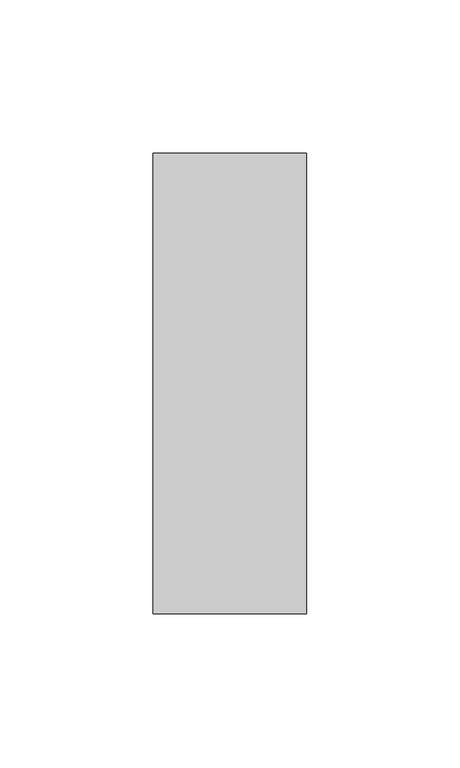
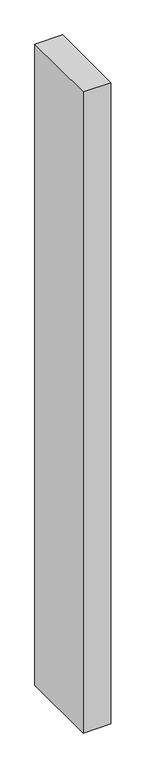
"""IFC4 building model written with IfcOpenShell, lengths in millimetres: member geometry, Прямоугольный импост : 50 x 150 мм."""

import ifcopenshell
import ifcopenshell.guid

model = None  # the IFC model being written
_history = None  # IfcOwnerHistory: only IFC2X3 demands one
_inside = {}  # id of a spatial element -> (the spatial element, [elements in it])
_under = {}  # id of a project, library or spatial element -> (it, [spatial elements below it])
_declared = {}  # id of a project -> (the project, [libraries it declares])
_typed = {}  # id of a type object -> (the type object, [elements of that type])
_made_of = {}  # id of a material, layer set ... -> (it, [elements and type objects made of it])


def new_model(schema):
    """Start an empty IFC model of exactly this schema.

    Asked for "IFC4X3", IfcOpenShell would pick the latest addendum, in which some entities
    have other attributes; the version numbers below select the first issue.
    IFC2X3 requires an IfcOwnerHistory on every rooted entity: one is made here for all.
    """
    global model, _history
    if schema == "IFC4X3":
        model = ifcopenshell.file(schema_version=(4, 3, 0, 0))
    else:
        model = ifcopenshell.file(schema=schema)
    _inside.clear()
    _under.clear()
    _declared.clear()
    _typed.clear()
    _made_of.clear()
    _history = None
    if model.schema == "IFC2X3":
        org = make("IfcOrganization", Name="unknown")
        user = make(
            "IfcPersonAndOrganization",
            ThePerson=make("IfcPerson", FamilyName="unknown"),
            TheOrganization=org,
        )
        app = make(
            "IfcApplication",
            ApplicationDeveloper=org,
            Version="unknown",
            ApplicationFullName="unknown",
            ApplicationIdentifier="unknown",
        )
        _history = make(
            "IfcOwnerHistory",
            OwningUser=user,
            OwningApplication=app,
            ChangeAction="ADDED",
            CreationDate=0,
        )
    return model


def make(cls, **values):
    """One entity of the class cls with the attributes given. An attribute that is None is left unset."""
    return model.create_entity(
        cls, **{name: value for name, value in values.items() if value is not None}
    )


def rooted(cls, **values):
    """An entity with a GlobalId (a new one), such as an element, a storey or a relation."""
    return make(cls, GlobalId=ifcopenshell.guid.new(), OwnerHistory=_history, **values)


def si_unit(unit_type, name, prefix=None):
    """IfcSIUnit, for example si_unit("LENGTHUNIT", "METRE", prefix="MILLI")."""
    return make("IfcSIUnit", UnitType=unit_type, Prefix=prefix, Name=name)


def assignment(units):
    """IfcUnitAssignment: the units of a project."""
    return None if units is None else make("IfcUnitAssignment", Units=units)


def point(xyz):
    """IfcCartesianPoint."""
    return None if xyz is None else make("IfcCartesianPoint", Coordinates=xyz)


def direction(xyz):
    """IfcDirection."""
    return None if xyz is None else make("IfcDirection", DirectionRatios=xyz)


def frame(location, z_axis=None, x_axis=None):
    """IfcAxis2Placement3D, a coordinate frame: its origin and axes. An axis left out is left unset."""
    return make(
        "IfcAxis2Placement3D",
        Location=point(location),
        Axis=direction(z_axis),
        RefDirection=direction(x_axis),
    )


def origin():
    """The frame at (0, 0, 0) with its axes left unset."""
    return frame((0.0, 0.0, 0.0))


def place(relative_to, where):
    """IfcLocalPlacement: puts the frame where relative to a parent placement (None: the world)."""
    return make(
        "IfcLocalPlacement", PlacementRelTo=relative_to, RelativePlacement=where
    )


def context(
    kind, dimensions, precision=None, world=None, true_north=None, identifier=None
):
    """IfcGeometricRepresentationContext, for example the 3D "Model" context."""
    return make(
        "IfcGeometricRepresentationContext",
        ContextIdentifier=identifier,
        ContextType=kind,
        CoordinateSpaceDimension=dimensions,
        Precision=precision,
        WorldCoordinateSystem=world,
        TrueNorth=true_north,
    )


def project(units=None, contexts=None):
    """IfcProject with its units and contexts."""
    return rooted(
        "IfcProject",
        Name="project",
        RepresentationContexts=contexts,
        UnitsInContext=assignment(units),
    )


def spatial(cls, under=None, at=None, **own):
    """A site, building, storey or space (cls), placed at a placement, below another one or the project."""
    s = rooted(cls, ObjectPlacement=at, **own)
    if under is not None:
        _under.setdefault(under.id(), (under, []))[1].append(s)
    return s


def polyline(points):
    """IfcPolyline through the points."""
    return make("IfcPolyline", Points=[point(p) for p in points])


def outline(outer, holes=None, kind="AREA"):
    """IfcArbitraryClosedProfileDef: a profile drawn as a closed curve; with holes, ...WithVoids."""
    if holes is None:
        return make("IfcArbitraryClosedProfileDef", ProfileType=kind, OuterCurve=outer)
    return make(
        "IfcArbitraryProfileDefWithVoids",
        ProfileType=kind,
        OuterCurve=outer,
        InnerCurves=holes,
    )


def extrude(swept, where, along, depth):
    """IfcExtrudedAreaSolid: the profile swept, set in the frame where, extruded along a direction by depth."""
    return make(
        "IfcExtrudedAreaSolid",
        SweptArea=swept,
        Position=where,
        ExtrudedDirection=direction(along),
        Depth=depth,
    )


def shape(context_of_items, identifier, shape_type, items):
    """IfcShapeRepresentation: the items that make up one representation, for example the "Body"."""
    return make(
        "IfcShapeRepresentation",
        ContextOfItems=context_of_items,
        RepresentationIdentifier=identifier,
        RepresentationType=shape_type,
        Items=items,
    )


def source(mapping_origin, context_of_items, identifier, shape_type, items):
    """IfcRepresentationMap: a shape defined once, which mapped items show again and again."""
    return make(
        "IfcRepresentationMap",
        MappingOrigin=mapping_origin,
        MappedRepresentation=shape(context_of_items, identifier, shape_type, items),
    )


def transform(
    local_origin,
    x_axis=None,
    y_axis=None,
    z_axis=None,
    scale=None,
    scale2=None,
    scale3=None,
    uniform=True,
):
    """IfcCartesianTransformationOperator3D, or its non-uniform kind. x_axis, y_axis, z_axis: its Axis1, 2, 3."""
    if uniform:
        return make(
            "IfcCartesianTransformationOperator3D",
            Axis1=direction(x_axis),
            Axis2=direction(y_axis),
            LocalOrigin=point(local_origin),
            Scale=scale,
            Axis3=direction(z_axis),
        )
    return make(
        "IfcCartesianTransformationOperator3DnonUniform",
        Axis1=direction(x_axis),
        Axis2=direction(y_axis),
        LocalOrigin=point(local_origin),
        Scale=scale,
        Axis3=direction(z_axis),
        Scale2=scale2,
        Scale3=scale3,
    )


def mapped(mapping_source, mapping_target):
    """IfcMappedItem: shows the shape of a source again, moved by a transform."""
    return make(
        "IfcMappedItem", MappingSource=mapping_source, MappingTarget=mapping_target
    )


def made_of(thing, what):
    """Note that an element or type object is made of a material, layer set ...; save() writes the relation."""
    if what is not None:
        _made_of.setdefault(what.id(), (what, []))[1].append(thing)
    return thing


def element(
    cls,
    number,
    at=None,
    inside=None,
    cuts=None,
    type_object=None,
    material=None,
    context=None,
    identifier="Body",
    shape_type=None,
    held_by="IfcProductDefinitionShape",
    body=None,
    shapes=None,
    **own,
):
    """One element of the class cls, such as IfcWall. Its Tag is "e" and its number.

    at: its placement. inside: the storey or other place that contains it. cuts: it is an
    opening in that element (IfcRelVoidsElement). A single representation is given by context,
    identifier, shape_type and body (its items); several are given by shapes. held_by: the class
    of the entity that holds the representations. save() writes the other relations.
    """
    e = rooted(cls, Tag="e%d" % number, ObjectPlacement=at, **own)
    if body is not None:
        shapes = [shape(context, identifier, shape_type, body)]
    if shapes is not None:
        e.Representation = make(held_by, Representations=shapes)
    if inside is not None:
        _inside.setdefault(inside.id(), (inside, []))[1].append(e)
    if cuts is not None:
        rooted(
            "IfcRelVoidsElement", RelatingBuildingElement=cuts, RelatedOpeningElement=e
        )
    if type_object is not None:
        _typed.setdefault(type_object.id(), (type_object, []))[1].append(e)
    return made_of(e, material)


def aggregate(whole, parts):
    """IfcRelAggregates: a whole, such as a stair, and the parts it consists of."""
    return rooted("IfcRelAggregates", RelatingObject=whole, RelatedObjects=parts)


def save(model, path):
    """Write the relations noted so far, then the file.

    IfcRelAggregates (storeys below a building ...), IfcRelContainedInSpatialStructure (elements
    in a storey), IfcRelDefinesByType, IfcRelAssociatesMaterial and IfcRelDeclares: one each for
    every whole, place, type object, material and project.
    """
    for whole, parts in _under.values():
        aggregate(whole, parts)
    for where, things in _inside.values():
        rooted(
            "IfcRelContainedInSpatialStructure",
            RelatedElements=things,
            RelatingStructure=where,
        )
    for kind, things in _typed.values():
        rooted("IfcRelDefinesByType", RelatedObjects=things, RelatingType=kind)
    for what, things in _made_of.values():
        rooted("IfcRelAssociatesMaterial", RelatedObjects=things, RelatingMaterial=what)
    for by, libraries in _declared.values():
        rooted("IfcRelDeclares", RelatingContext=by, RelatedDefinitions=libraries)
    model.write(path)


def member_c66e25e9(model_context):
    return source(origin(), model_context, "Body", "SweptSolid", [
        extrude(outline(polyline([(25.0, 75.0), (25.0, -75.0), (-25.0, -75.0), (-25.0, 75.0), (25.0, 75.0)])), frame((0.0, 0.0, -1220.6537923), z_axis=(0.0, 0.0, 1.0), x_axis=(1.0, 0.0, 0.0)), (0.0, 0.0, 1.0), 1220.6537923),
    ])


if __name__ == "__main__":
    model = new_model("IFC4")
    model_context = context("Model", 3, world=origin())
    ifc_project = project(units=[si_unit("LENGTHUNIT", "METRE", prefix="MILLI")], contexts=[model_context])
    site = spatial("IfcSite", under=ifc_project)
    building = spatial("IfcBuilding", under=site)
    placement = place(None, origin())
    member_shape = member_c66e25e9(model_context)
    element("IfcMember", 1, ObjectType="Прямоугольный импост : 50 x 150 мм", at=placement, inside=building, context=model_context, shape_type="MappedRepresentation", body=[
        mapped(member_shape, transform((0.0, 0.0, 0.0), x_axis=(1.0, 0.0, 0.0), y_axis=(0.0, 1.0, 0.0), z_axis=(0.0, 0.0, 1.0))),
    ])
    save(model, "model.ifc")
